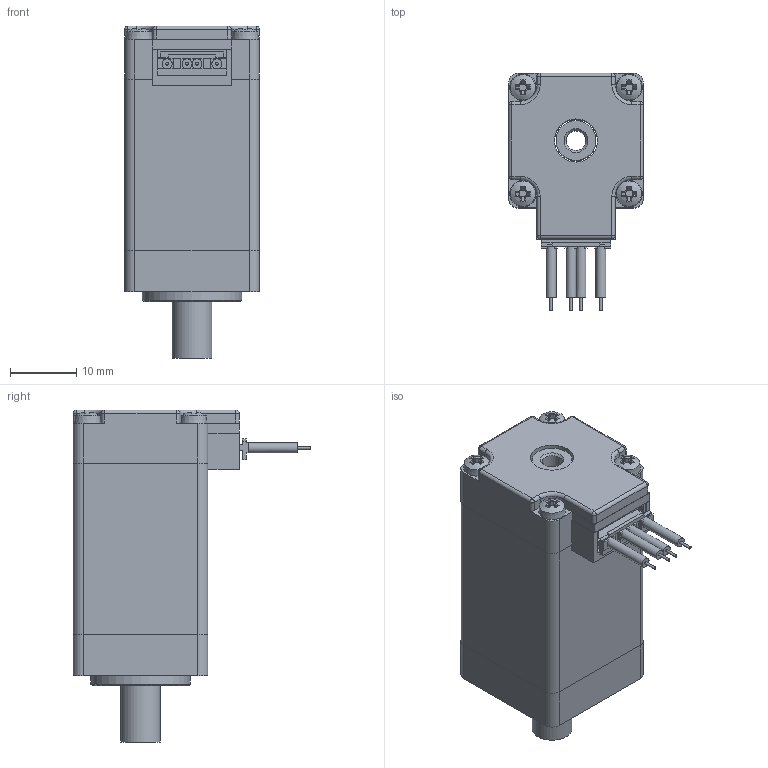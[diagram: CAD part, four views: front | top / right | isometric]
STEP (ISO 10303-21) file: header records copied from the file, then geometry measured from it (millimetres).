
FILE_DESCRIPTION(/* description */ (''),/* implementation_level */ '2;1');
FILE_NAME(/* name */ 'C:\Users\raffaele\Downloads\Projects\E&D\ipt-to-step-conversion\20STC-H.stp',/* time_stamp */ '2021-02-10T15:34:04+01:00',/* author */ ('angelika.schneid'),/* organization */ (''),/* preprocessor_version */ 'ST-DEVELOPER v18',/* originating_system */ 'Autodesk Inventor 2020',/* authorisation */ '');
FILE_SCHEMA (('AUTOMOTIVE_DESIGN { 1 0 10303 214 3 1 1 }'));
Length unit declared in the file: millimetre
Products named in the file (1): 20STC-H
Bounding box: 20.3 x 35.8 x 50 mm (x, y, z)
Volume: 16662.9 mm3; surface area: 9700.4 mm2
Topology: 13 solids, 13 shells, 445 faces, 1192 edges, 780 vertices
Faces by surface type: plane 274, cylinder 83, cone 67, sphere 12, torus 8, bspline 1
Full cylindrical faces by diameter (mm): 0.405 x4, 0.5 x12, 1.5 x2, 1.567 x4, 1.8 x4, 2 x4, 2.4 x4, 3 x1, 6 x1, 6.5 x4, 10 x2, 15 x1
Entity records: 14264 total; most frequent: CARTESIAN_POINT 2595, DIRECTION 2450, ORIENTED_EDGE 2366, EDGE_CURVE 1183, AXIS2_PLACEMENT_3D 886, VERTEX_POINT 780, LINE 678, VECTOR 678
